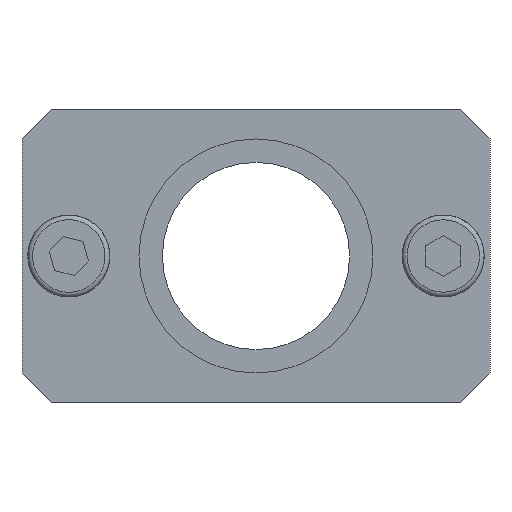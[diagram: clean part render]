
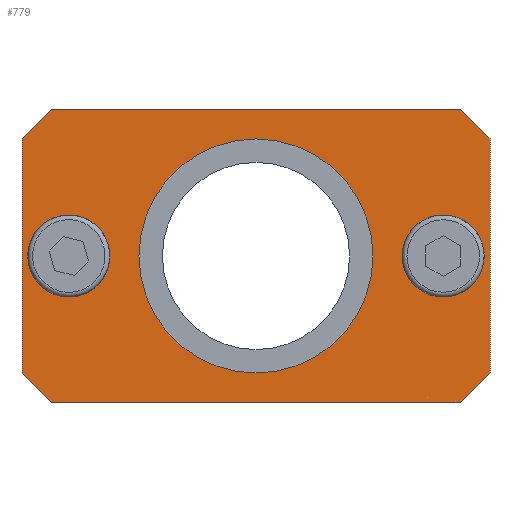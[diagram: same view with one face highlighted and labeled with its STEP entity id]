
A CAD part, left-side view. The second image highlights one B-rep face of the part: STEP entity #779.
In plain terms, the highlighted planar face has unit normal (-1, 0, 0).
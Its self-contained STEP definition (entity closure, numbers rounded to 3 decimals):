
#779=ADVANCED_FACE('',(#1515,#1516,#1517,#1518),#1519,.T.);
#1515=FACE_BOUND('',#2237,.T.);
#1516=FACE_BOUND('',#2238,.T.);
#1517=FACE_BOUND('',#2239,.T.);
#1518=FACE_OUTER_BOUND('',#2240,.T.);
#1519=PLANE('',#2241);
#2237=EDGE_LOOP('',(#4385));
#2238=EDGE_LOOP('',(#4386));
#2239=EDGE_LOOP('',(#4387));
#2240=EDGE_LOOP('',(#4388,#4389,#4390,#4391,#4392,#4393,#4394,#4395));
#2241=AXIS2_PLACEMENT_3D('',#4396,#4397,#4398);
#4385=ORIENTED_EDGE('',*,*,#5311,.F.);
#4386=ORIENTED_EDGE('',*,*,#5312,.F.);
#4387=ORIENTED_EDGE('',*,*,#5307,.F.);
#4388=ORIENTED_EDGE('',*,*,#5298,.T.);
#4389=ORIENTED_EDGE('',*,*,#5300,.T.);
#4390=ORIENTED_EDGE('',*,*,#5313,.T.);
#4391=ORIENTED_EDGE('',*,*,#5288,.T.);
#4392=ORIENTED_EDGE('',*,*,#5314,.T.);
#4393=ORIENTED_EDGE('',*,*,#5278,.T.);
#4394=ORIENTED_EDGE('',*,*,#5293,.T.);
#4395=ORIENTED_EDGE('',*,*,#5283,.T.);
#4396=CARTESIAN_POINT('',(-5.0,-20.0,12.5));
#4397=DIRECTION('',(-1.0,0.,0.0));
#4398=DIRECTION('',(0.,-1.0,0.0));
#5278=EDGE_CURVE('',#6546,#6547,#6548,.F.);
#5283=EDGE_CURVE('',#6555,#6556,#6557,.F.);
#5288=EDGE_CURVE('',#6564,#6565,#6566,.F.);
#5293=EDGE_CURVE('',#6547,#6555,#6573,.T.);
#5298=EDGE_CURVE('',#6556,#6578,#6580,.T.);
#5300=EDGE_CURVE('',#6578,#6582,#6583,.F.);
#5307=EDGE_CURVE('',#6593,#6593,#6594,.T.);
#5311=EDGE_CURVE('',#6599,#6599,#6600,.T.);
#5312=EDGE_CURVE('',#6601,#6601,#6602,.T.);
#5313=EDGE_CURVE('',#6582,#6564,#6603,.T.);
#5314=EDGE_CURVE('',#6565,#6546,#6604,.T.);
#6546=VERTEX_POINT('',#8244);
#6547=VERTEX_POINT('',#8245);
#6548=LINE('',#8246,#8247);
#6555=VERTEX_POINT('',#8257);
#6556=VERTEX_POINT('',#8258);
#6557=LINE('',#8259,#8260);
#6564=VERTEX_POINT('',#8270);
#6565=VERTEX_POINT('',#8271);
#6566=LINE('',#8272,#8273);
#6573=LINE('',#8283,#8284);
#6578=VERTEX_POINT('',#8291);
#6580=LINE('',#8294,#8295);
#6582=VERTEX_POINT('',#8297);
#6583=LINE('',#8298,#8299);
#6593=VERTEX_POINT('',#8311);
#6594=CIRCLE('',#8312,10.0);
#6599=VERTEX_POINT('',#8317);
#6600=CIRCLE('',#8318,2.25);
#6601=VERTEX_POINT('',#8319);
#6602=CIRCLE('',#8320,2.25);
#6603=LINE('',#8321,#8322);
#6604=LINE('',#8323,#8324);
#8244=CARTESIAN_POINT('',(-5.0,-17.5,-12.5));
#8245=CARTESIAN_POINT('',(-5.0,-20.0,-10.0));
#8246=CARTESIAN_POINT('',(-5.0,-31.25,1.25));
#8247=VECTOR('',#9349,1.0);
#8257=CARTESIAN_POINT('',(-5.0,-20.0,10.0));
#8258=CARTESIAN_POINT('',(-5.0,-17.5,12.5));
#8259=CARTESIAN_POINT('',(-5.0,-18.75,11.25));
#8260=VECTOR('',#9353,1.0);
#8270=CARTESIAN_POINT('',(-5.0,20.0,-10.0));
#8271=CARTESIAN_POINT('',(-5.0,17.5,-12.5));
#8272=CARTESIAN_POINT('',(-5.0,11.25,-18.75));
#8273=VECTOR('',#9357,1.0);
#8283=CARTESIAN_POINT('',(-5.0,-20.0,-12.5));
#8284=VECTOR('',#9361,1.0);
#8291=CARTESIAN_POINT('',(-5.0,17.5,12.5));
#8294=CARTESIAN_POINT('',(-5.0,-20.0,12.5));
#8295=VECTOR('',#9365,1.0);
#8297=CARTESIAN_POINT('',(-5.0,20.0,10.0));
#8298=CARTESIAN_POINT('',(-5.0,-1.25,31.25));
#8299=VECTOR('',#9366,1.0);
#8311=CARTESIAN_POINT('',(-5.0,-10.0,0.));
#8312=AXIS2_PLACEMENT_3D('',#9375,#9376,#9377);
#8317=CARTESIAN_POINT('',(-5.0,-18.25,0.));
#8318=AXIS2_PLACEMENT_3D('',#9381,#9382,#9383);
#8319=CARTESIAN_POINT('',(-5.0,13.75,0.));
#8320=AXIS2_PLACEMENT_3D('',#9384,#9385,#9386);
#8321=CARTESIAN_POINT('',(-5.0,20.0,12.5));
#8322=VECTOR('',#9387,1.0);
#8323=CARTESIAN_POINT('',(-5.0,20.0,-12.5));
#8324=VECTOR('',#9388,1.0);
#9349=DIRECTION('',(0.,0.707,-0.707));
#9353=DIRECTION('',(0.,-0.707,-0.707));
#9357=DIRECTION('',(0.,0.707,0.707));
#9361=DIRECTION('',(0.0,0.0,1.0));
#9365=DIRECTION('',(0.,1.0,0.0));
#9366=DIRECTION('',(0.,-0.707,0.707));
#9375=CARTESIAN_POINT('',(-5.0,0.,0.));
#9376=DIRECTION('',(-1.0,0.,0.0));
#9377=DIRECTION('',(0.,-1.0,0.0));
#9381=CARTESIAN_POINT('',(-5.0,-16.0,0.));
#9382=DIRECTION('',(-1.0,0.,0.0));
#9383=DIRECTION('',(0.,-1.0,0.0));
#9384=CARTESIAN_POINT('',(-5.0,16.0,0.));
#9385=DIRECTION('',(-1.0,0.,0.0));
#9386=DIRECTION('',(0.,-1.0,0.0));
#9387=DIRECTION('',(0.,0.,-1.0));
#9388=DIRECTION('',(0.,-1.0,0.));
